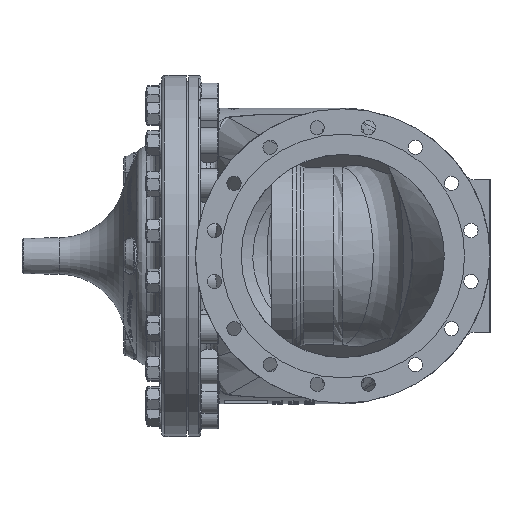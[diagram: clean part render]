
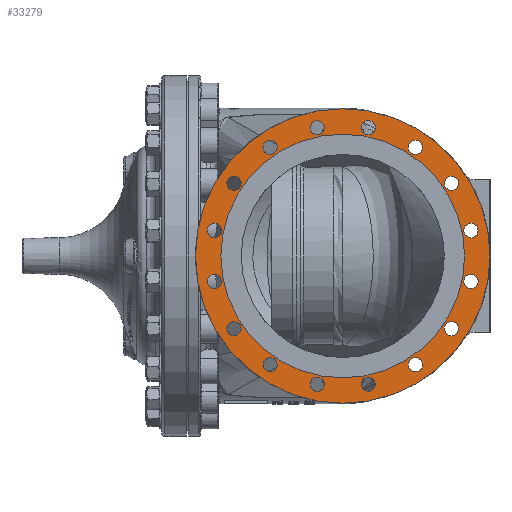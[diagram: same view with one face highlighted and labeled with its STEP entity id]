
A CAD part, left-side view. The second image highlights one B-rep face of the part: STEP entity #33279.
In plain terms, the highlighted planar face has unit normal (-1, 0, 0).
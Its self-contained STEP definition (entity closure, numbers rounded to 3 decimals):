
#5688=FACE_BOUND('',#8103,.T.);
#5689=FACE_BOUND('',#8104,.T.);
#5690=FACE_BOUND('',#8105,.T.);
#5691=FACE_BOUND('',#8106,.T.);
#5692=FACE_BOUND('',#8107,.T.);
#5693=FACE_BOUND('',#8108,.T.);
#5694=FACE_BOUND('',#8109,.T.);
#5695=FACE_BOUND('',#8110,.T.);
#5696=FACE_BOUND('',#8111,.T.);
#5697=FACE_BOUND('',#8112,.T.);
#5698=FACE_BOUND('',#8113,.T.);
#5699=FACE_BOUND('',#8114,.T.);
#5700=FACE_BOUND('',#8115,.T.);
#5701=FACE_BOUND('',#8116,.T.);
#5702=FACE_BOUND('',#8117,.T.);
#5703=FACE_BOUND('',#8118,.T.);
#5704=FACE_BOUND('',#8119,.T.);
#5926=FACE_OUTER_BOUND('',#8102,.T.);
#8102=EDGE_LOOP('',(#21865));
#8103=EDGE_LOOP('',(#21866));
#8104=EDGE_LOOP('',(#21867));
#8105=EDGE_LOOP('',(#21868));
#8106=EDGE_LOOP('',(#21869));
#8107=EDGE_LOOP('',(#21870));
#8108=EDGE_LOOP('',(#21871));
#8109=EDGE_LOOP('',(#21872));
#8110=EDGE_LOOP('',(#21873));
#8111=EDGE_LOOP('',(#21874));
#8112=EDGE_LOOP('',(#21875));
#8113=EDGE_LOOP('',(#21876));
#8114=EDGE_LOOP('',(#21877));
#8115=EDGE_LOOP('',(#21878));
#8116=EDGE_LOOP('',(#21879));
#8117=EDGE_LOOP('',(#21880));
#8118=EDGE_LOOP('',(#21881));
#8119=EDGE_LOOP('',(#21882));
#10411=CIRCLE('',#35440,14.);
#10413=CIRCLE('',#35443,14.);
#10415=CIRCLE('',#35446,14.);
#10417=CIRCLE('',#35449,14.);
#10419=CIRCLE('',#35452,14.);
#10421=CIRCLE('',#35455,14.);
#10423=CIRCLE('',#35458,14.);
#10425=CIRCLE('',#35461,14.);
#10427=CIRCLE('',#35464,14.);
#10429=CIRCLE('',#35467,14.);
#10431=CIRCLE('',#35470,14.);
#10433=CIRCLE('',#35473,14.);
#10435=CIRCLE('',#35476,14.);
#10437=CIRCLE('',#35479,14.);
#10439=CIRCLE('',#35482,14.);
#10441=CIRCLE('',#35485,14.);
#10484=CIRCLE('',#35556,290.);
#10485=CIRCLE('',#35557,240.);
#12839=VERTEX_POINT('',#50258);
#12841=VERTEX_POINT('',#50264);
#12843=VERTEX_POINT('',#50270);
#12845=VERTEX_POINT('',#50276);
#12847=VERTEX_POINT('',#50282);
#12849=VERTEX_POINT('',#50288);
#12851=VERTEX_POINT('',#50294);
#12853=VERTEX_POINT('',#50300);
#12855=VERTEX_POINT('',#50306);
#12857=VERTEX_POINT('',#50312);
#12859=VERTEX_POINT('',#50318);
#12861=VERTEX_POINT('',#50324);
#12863=VERTEX_POINT('',#50330);
#12865=VERTEX_POINT('',#50336);
#12867=VERTEX_POINT('',#50342);
#12869=VERTEX_POINT('',#50348);
#12939=VERTEX_POINT('',#50935);
#12940=VERTEX_POINT('',#50937);
#16247=EDGE_CURVE('',#12839,#12839,#10411,.T.);
#16250=EDGE_CURVE('',#12841,#12841,#10413,.T.);
#16253=EDGE_CURVE('',#12843,#12843,#10415,.T.);
#16256=EDGE_CURVE('',#12845,#12845,#10417,.T.);
#16259=EDGE_CURVE('',#12847,#12847,#10419,.T.);
#16262=EDGE_CURVE('',#12849,#12849,#10421,.T.);
#16265=EDGE_CURVE('',#12851,#12851,#10423,.T.);
#16268=EDGE_CURVE('',#12853,#12853,#10425,.T.);
#16271=EDGE_CURVE('',#12855,#12855,#10427,.T.);
#16274=EDGE_CURVE('',#12857,#12857,#10429,.T.);
#16277=EDGE_CURVE('',#12859,#12859,#10431,.T.);
#16280=EDGE_CURVE('',#12861,#12861,#10433,.T.);
#16283=EDGE_CURVE('',#12863,#12863,#10435,.T.);
#16286=EDGE_CURVE('',#12865,#12865,#10437,.T.);
#16289=EDGE_CURVE('',#12867,#12867,#10439,.T.);
#16292=EDGE_CURVE('',#12869,#12869,#10441,.T.);
#16385=EDGE_CURVE('',#12939,#12939,#10484,.T.);
#16386=EDGE_CURVE('',#12940,#12940,#10485,.T.);
#21865=ORIENTED_EDGE('',*,*,#16385,.F.);
#21866=ORIENTED_EDGE('',*,*,#16247,.T.);
#21867=ORIENTED_EDGE('',*,*,#16250,.T.);
#21868=ORIENTED_EDGE('',*,*,#16253,.T.);
#21869=ORIENTED_EDGE('',*,*,#16256,.T.);
#21870=ORIENTED_EDGE('',*,*,#16259,.T.);
#21871=ORIENTED_EDGE('',*,*,#16262,.T.);
#21872=ORIENTED_EDGE('',*,*,#16265,.T.);
#21873=ORIENTED_EDGE('',*,*,#16268,.T.);
#21874=ORIENTED_EDGE('',*,*,#16271,.T.);
#21875=ORIENTED_EDGE('',*,*,#16274,.T.);
#21876=ORIENTED_EDGE('',*,*,#16277,.T.);
#21877=ORIENTED_EDGE('',*,*,#16280,.T.);
#21878=ORIENTED_EDGE('',*,*,#16283,.T.);
#21879=ORIENTED_EDGE('',*,*,#16286,.T.);
#21880=ORIENTED_EDGE('',*,*,#16289,.T.);
#21881=ORIENTED_EDGE('',*,*,#16292,.T.);
#21882=ORIENTED_EDGE('',*,*,#16386,.F.);
#32438=PLANE('',#35555);
#33279=ADVANCED_FACE('',(#5926,#5688,#5689,#5690,#5691,#5692,#5693,#5694,
#5695,#5696,#5697,#5698,#5699,#5700,#5701,#5702,#5703,#5704),#32438,.F.);
#35440=AXIS2_PLACEMENT_3D('',#50259,#39749,#39750);
#35443=AXIS2_PLACEMENT_3D('',#50265,#39756,#39757);
#35446=AXIS2_PLACEMENT_3D('',#50271,#39763,#39764);
#35449=AXIS2_PLACEMENT_3D('',#50277,#39770,#39771);
#35452=AXIS2_PLACEMENT_3D('',#50283,#39777,#39778);
#35455=AXIS2_PLACEMENT_3D('',#50289,#39784,#39785);
#35458=AXIS2_PLACEMENT_3D('',#50295,#39791,#39792);
#35461=AXIS2_PLACEMENT_3D('',#50301,#39798,#39799);
#35464=AXIS2_PLACEMENT_3D('',#50307,#39805,#39806);
#35467=AXIS2_PLACEMENT_3D('',#50313,#39812,#39813);
#35470=AXIS2_PLACEMENT_3D('',#50319,#39819,#39820);
#35473=AXIS2_PLACEMENT_3D('',#50325,#39826,#39827);
#35476=AXIS2_PLACEMENT_3D('',#50331,#39833,#39834);
#35479=AXIS2_PLACEMENT_3D('',#50337,#39840,#39841);
#35482=AXIS2_PLACEMENT_3D('',#50343,#39847,#39848);
#35485=AXIS2_PLACEMENT_3D('',#50349,#39854,#39855);
#35555=AXIS2_PLACEMENT_3D('',#50934,#40015,#40016);
#35556=AXIS2_PLACEMENT_3D('',#50936,#40017,#40018);
#35557=AXIS2_PLACEMENT_3D('',#50938,#40019,#40020);
#39749=DIRECTION('center_axis',(1.,0.,0.));
#39750=DIRECTION('ref_axis',(0.,-0.383,-0.924));
#39756=DIRECTION('center_axis',(1.,0.,0.));
#39757=DIRECTION('ref_axis',(0.,-0.707,-0.707));
#39763=DIRECTION('center_axis',(1.,0.,0.));
#39764=DIRECTION('ref_axis',(0.,-0.924,-0.383));
#39770=DIRECTION('center_axis',(1.,0.,0.));
#39771=DIRECTION('ref_axis',(0.,-1.,0.));
#39777=DIRECTION('center_axis',(1.,0.,0.));
#39778=DIRECTION('ref_axis',(0.,-0.924,0.383));
#39784=DIRECTION('center_axis',(1.,0.,0.));
#39785=DIRECTION('ref_axis',(0.,-0.707,0.707));
#39791=DIRECTION('center_axis',(1.,0.,0.));
#39792=DIRECTION('ref_axis',(0.,-0.383,0.924));
#39798=DIRECTION('center_axis',(1.,0.,0.));
#39799=DIRECTION('ref_axis',(0.,0.,
1.));
#39805=DIRECTION('center_axis',(1.,0.,0.));
#39806=DIRECTION('ref_axis',(0.,0.383,0.924));
#39812=DIRECTION('center_axis',(1.,0.,0.));
#39813=DIRECTION('ref_axis',(0.,0.707,0.707));
#39819=DIRECTION('center_axis',(1.,0.,0.));
#39820=DIRECTION('ref_axis',(0.,0.924,0.383));
#39826=DIRECTION('center_axis',(1.,0.,0.));
#39827=DIRECTION('ref_axis',(0.,1.,0.));
#39833=DIRECTION('center_axis',(1.,0.,0.));
#39834=DIRECTION('ref_axis',(0.,0.924,-0.383));
#39840=DIRECTION('center_axis',(1.,0.,0.));
#39841=DIRECTION('ref_axis',(0.,0.707,-0.707));
#39847=DIRECTION('center_axis',(1.,0.,0.));
#39848=DIRECTION('ref_axis',(0.,0.383,-0.924));
#39854=DIRECTION('center_axis',(1.,0.,0.));
#39855=DIRECTION('ref_axis',(0.,0.,
-1.));
#40015=DIRECTION('center_axis',(1.,0.,0.));
#40016=DIRECTION('ref_axis',(0.,0.,
-1.));
#40017=DIRECTION('center_axis',(1.,0.,0.));
#40018=DIRECTION('ref_axis',(0.,0.,
-1.));
#40019=DIRECTION('center_axis',(-1.,0.,0.));
#40020=DIRECTION('ref_axis',(0.,0.,
-1.));
#50258=CARTESIAN_POINT('',(-546.,-483.233,227.038));
#50259=CARTESIAN_POINT('Origin',(-546.,-488.591,214.103));
#50264=CARTESIAN_POINT('',(-546.,-407.647,152.959));
#50265=CARTESIAN_POINT('Origin',(-546.,-417.547,143.059));
#50270=CARTESIAN_POINT('',(-546.,-366.163,55.593));
#50271=CARTESIAN_POINT('Origin',(-546.,-379.098,50.236));
#50276=CARTESIAN_POINT('',(-546.,-365.098,-50.236));
#50277=CARTESIAN_POINT('Origin',(-546.,-379.098,-50.236));
#50282=CARTESIAN_POINT('',(-546.,-404.612,-148.417));
#50283=CARTESIAN_POINT('Origin',(-546.,-417.547,-143.059));
#50288=CARTESIAN_POINT('',(-546.,-478.691,-224.003));
#50289=CARTESIAN_POINT('Origin',(-546.,-488.591,-214.103));
#50294=CARTESIAN_POINT('',(-546.,-576.057,-265.487));
#50295=CARTESIAN_POINT('Origin',(-546.,-581.414,-252.552));
#50300=CARTESIAN_POINT('',(-546.,-681.886,-266.552));
#50301=CARTESIAN_POINT('Origin',(-546.,-681.886,-252.552));
#50306=CARTESIAN_POINT('',(-546.,-780.067,-227.038));
#50307=CARTESIAN_POINT('Origin',(-546.,-774.709,-214.103));
#50312=CARTESIAN_POINT('',(-546.,-855.653,-152.959));
#50313=CARTESIAN_POINT('Origin',(-546.,-845.753,-143.059));
#50318=CARTESIAN_POINT('',(-546.,-897.137,-55.593));
#50319=CARTESIAN_POINT('Origin',(-546.,-884.202,-50.236));
#50324=CARTESIAN_POINT('',(-546.,-898.202,50.236));
#50325=CARTESIAN_POINT('Origin',(-546.,-884.202,50.236));
#50330=CARTESIAN_POINT('',(-546.,-858.688,148.417));
#50331=CARTESIAN_POINT('Origin',(-546.,-845.753,143.059));
#50336=CARTESIAN_POINT('',(-546.,-784.609,224.003));
#50337=CARTESIAN_POINT('Origin',(-546.,-774.709,214.103));
#50342=CARTESIAN_POINT('',(-546.,-687.243,265.487));
#50343=CARTESIAN_POINT('Origin',(-546.,-681.886,252.552));
#50348=CARTESIAN_POINT('',(-546.,-581.414,266.552));
#50349=CARTESIAN_POINT('Origin',(-546.,-581.414,252.552));
#50934=CARTESIAN_POINT('Origin',(-546.,-631.65,0.));
#50935=CARTESIAN_POINT('',(-546.,-631.65,290.));
#50936=CARTESIAN_POINT('Origin',(-546.,-631.65,0.));
#50937=CARTESIAN_POINT('',(-546.,-631.65,240.));
#50938=CARTESIAN_POINT('Origin',(-546.,-631.65,0.));
